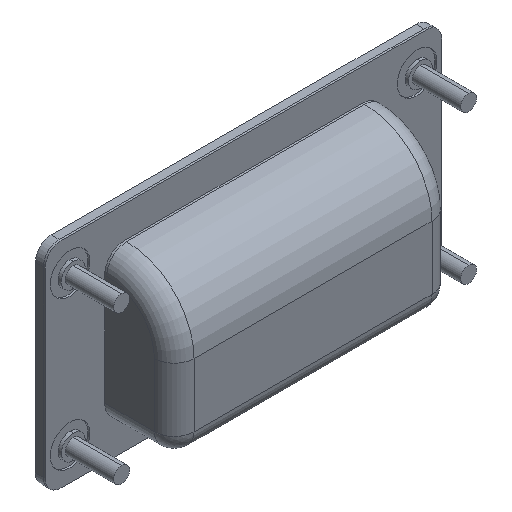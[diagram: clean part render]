
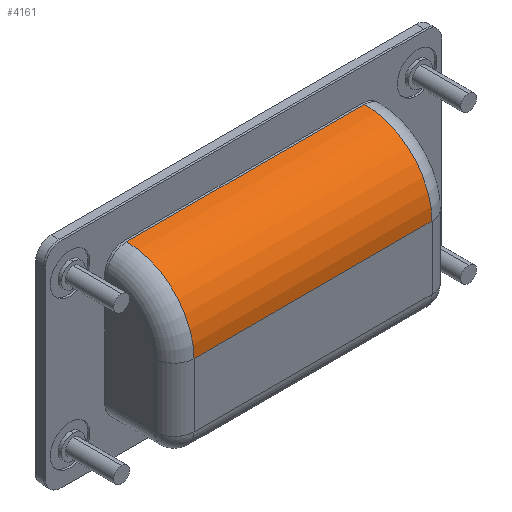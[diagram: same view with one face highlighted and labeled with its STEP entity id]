
A CAD part, isometric view. The second image highlights one B-rep face of the part: STEP entity #4161.
In plain terms, the highlighted cylindrical face has radius 17 mm (diameter 34 mm), a partial arc.
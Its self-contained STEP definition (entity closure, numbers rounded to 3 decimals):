
#109 = CIRCLE ( 'NONE', #1102, 17. ) ;
#128 = DIRECTION ( 'NONE',  ( 0., 0., -1. ) ) ;
#223 = CIRCLE ( 'NONE', #788, 17. ) ;
#243 = ORIENTED_EDGE ( 'NONE', *, *, #1654, .F. ) ;
#368 = CARTESIAN_POINT ( 'NONE',  ( -30., -18., 2. ) ) ;
#407 = LINE ( 'NONE', #2026, #1594 ) ;
#473 = EDGE_CURVE ( 'NONE', #3439, #4051, #223, .T. ) ;
#696 = DIRECTION ( 'NONE',  ( 0., 0., 1. ) ) ;
#788 = AXIS2_PLACEMENT_3D ( 'NONE', #2785, #3729, #696 ) ;
#841 = EDGE_CURVE ( 'NONE', #1678, #4051, #1546, .T. ) ;
#1102 = AXIS2_PLACEMENT_3D ( 'NONE', #3150, #1495, #2486 ) ;
#1145 = FACE_OUTER_BOUND ( 'NONE', #1228, .T. ) ;
#1194 = CARTESIAN_POINT ( 'NONE',  ( -46.25, -18., 2. ) ) ;
#1228 = EDGE_LOOP ( 'NONE', ( #243, #3635, #3549, #3507 ) ) ;
#1495 = DIRECTION ( 'NONE',  ( -1., 0., 0. ) ) ;
#1546 = LINE ( 'NONE', #1194, #2697 ) ;
#1594 = VECTOR ( 'NONE', #4048, 1000. ) ;
#1654 = EDGE_CURVE ( 'NONE', #3004, #3439, #407, .T. ) ;
#1678 = VERTEX_POINT ( 'NONE', #368 ) ;
#1914 = CYLINDRICAL_SURFACE ( 'NONE', #2440, 17. ) ;
#2026 = CARTESIAN_POINT ( 'NONE',  ( -46.25, -1., 19. ) ) ;
#2335 = CARTESIAN_POINT ( 'NONE',  ( 30., -18., 2. ) ) ;
#2440 = AXIS2_PLACEMENT_3D ( 'NONE', #2891, #4146, #128 ) ;
#2486 = DIRECTION ( 'NONE',  ( 0., 0., -1. ) ) ;
#2697 = VECTOR ( 'NONE', #3223, 1000. ) ;
#2785 = CARTESIAN_POINT ( 'NONE',  ( 30., -1., 2. ) ) ;
#2891 = CARTESIAN_POINT ( 'NONE',  ( -46.25, -1., 2. ) ) ;
#3004 = VERTEX_POINT ( 'NONE', #3744 ) ;
#3150 = CARTESIAN_POINT ( 'NONE',  ( -30., -1., 2. ) ) ;
#3223 = DIRECTION ( 'NONE',  ( 1., 0., 0. ) ) ;
#3439 = VERTEX_POINT ( 'NONE', #3745 ) ;
#3507 = ORIENTED_EDGE ( 'NONE', *, *, #473, .F. ) ;
#3549 = ORIENTED_EDGE ( 'NONE', *, *, #841, .T. ) ;
#3635 = ORIENTED_EDGE ( 'NONE', *, *, #4162, .F. ) ;
#3729 = DIRECTION ( 'NONE',  ( 1., 0., 0. ) ) ;
#3744 = CARTESIAN_POINT ( 'NONE',  ( -30., -1., 19. ) ) ;
#3745 = CARTESIAN_POINT ( 'NONE',  ( 30., -1., 19. ) ) ;
#4048 = DIRECTION ( 'NONE',  ( 1., 0., 0. ) ) ;
#4051 = VERTEX_POINT ( 'NONE', #2335 ) ;
#4146 = DIRECTION ( 'NONE',  ( 1., 0., 0. ) ) ;
#4161 = ADVANCED_FACE ( 'NONE', ( #1145 ), #1914, .T. ) ;
#4162 = EDGE_CURVE ( 'NONE', #1678, #3004, #109, .T. ) ;
